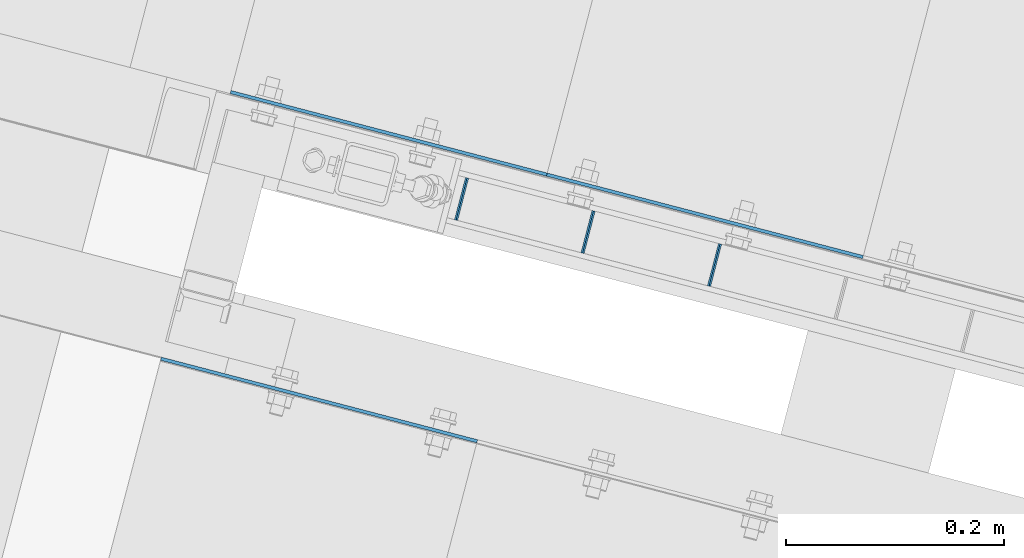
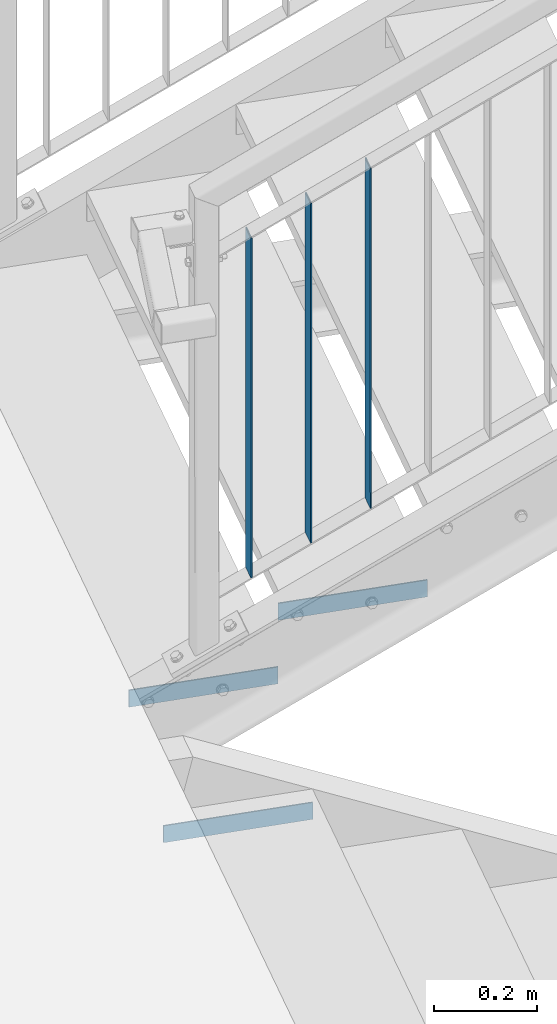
# One storey, part 71 of 169: 6 discrete accessories, 4 elements without a shape of their own.
"""IFC2X3 building model written with IfcOpenShell, lengths in millimetres."""

from ifc_helpers import new_model, si_unit, frame, origin_with_axes, origin_2d_with_axis, place, context, subcontext, project, spatial, polyline, rectangle, outline, extrude, clip, halfspace, material, type_object, element, aggregate, save


model = new_model("IFC2X3")

# Units and contexts
model_context = context("Model", 3, precision=1e-05, world=origin_with_axes())
body_context = subcontext(model_context, "Body", "Model", "MODEL_VIEW")
ifc_project = project(units=[si_unit("LENGTHUNIT", "METRE", prefix="MILLI"), si_unit("AREAUNIT", "SQUARE_METRE"), si_unit("VOLUMEUNIT", "CUBIC_METRE"), si_unit("MASSUNIT", "GRAM", prefix="KILO"), si_unit("TIMEUNIT", "SECOND"), si_unit("PLANEANGLEUNIT", "RADIAN"), si_unit("SOLIDANGLEUNIT", "STERADIAN"), si_unit("THERMODYNAMICTEMPERATUREUNIT", "DEGREE_CELSIUS"), si_unit("LUMINOUSINTENSITYUNIT", "LUMEN")], contexts=[model_context])

# Site, building, storey
site_placement = place(None, origin_with_axes())
site = spatial("IfcSite", under=ifc_project, at=site_placement, Name="Undefined", CompositionType="ELEMENT")
building_placement = place(site_placement, origin_with_axes())
building = spatial("IfcBuilding", under=site, at=building_placement, Name="Undefined", CompositionType="ELEMENT")
storey_placement = place(building_placement, origin_with_axes())
storey = spatial("IfcBuildingStorey", under=building, at=storey_placement, Name="Undefined", CompositionType="ELEMENT", Elevation=0.0)

# Assembly, discrete accessories
assembly_1_placement = place(storey_placement, origin_with_axes())
assembly_1 = element("IfcElementAssembly", 1, at=assembly_1_placement, inside=storey, Name="Steel Assembly", AssemblyPlace="NOTDEFINED", PredefinedType="RIGID_FRAME")
ifc_material_1 = material(Name="STEEL/S235")
discrete_accessory_type_1 = type_object("IfcDiscreteAccessoryType", Name="PORĘCZ")
discrete_accessory_1_placement = place(assembly_1_placement, frame((-27707.0059188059, 7313.25979053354, 13567.1970341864), z_axis=(-0.967563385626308, 0.252628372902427, -1.72000000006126e-07), x_axis=(-3.45692487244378e-05, -0.000132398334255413, -0.999999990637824)))
discrete_accessory_1 = element("IfcDiscreteAccessory", 2, at=discrete_accessory_1_placement, type_object=discrete_accessory_type_1, material=ifc_material_1, Name="PORĘCZ", ObjectType="BL40*3", context=body_context, shape_type="Clipping", body=[
    clip(clip(clip(extrude(outline(polyline([(953.32294910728, 20.0000000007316), (953.322949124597, -19.9999999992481), (149.627900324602, -19.9999999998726), (149.627900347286, 20.0000000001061), (953.32294910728, 20.0000000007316)])), frame((1.81898940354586e-12, -1.77635442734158e-15, -1.50000000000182), z_axis=(0.0, 0.0, 1.0), x_axis=(1.0, 0.0, 0.0)), (0.0, 0.0, 1.0), 3.0), halfspace(frame((149.292490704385, 1000.00000000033, -0.670820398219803), z_axis=(0.894427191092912, -5.07357340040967e-10, -0.447213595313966), x_axis=(-0.447213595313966, -3.31775709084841e-10, -0.894427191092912)), True)), halfspace(frame((953.658358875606, 1000.00000000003, 0.670820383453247), z_axis=(-0.89442719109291, -3.87067713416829e-10, 0.44721359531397), x_axis=(0.44721359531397, 3.3177479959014e-10, 0.89442719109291)), True)), halfspace(frame((22.3606799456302, 999.999999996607, -11.1803398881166), z_axis=(0.894427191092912, -5.07357340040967e-10, -0.447213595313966), x_axis=(-0.447213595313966, -3.31775709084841e-10, -0.894427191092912)), True)),
])
discrete_accessory_2_placement = place(assembly_1_placement, frame((-27590.896238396, 7282.95232969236, 13627.1970335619), z_axis=(-0.967563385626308, 0.252628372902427, -1.72000000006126e-07), x_axis=(-3.45692487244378e-05, -0.000132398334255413, -0.999999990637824)))
discrete_accessory_2 = element("IfcDiscreteAccessory", 3, at=discrete_accessory_2_placement, type_object=discrete_accessory_type_1, material=ifc_material_1, Name="PORĘCZ", ObjectType="BL40*3", context=body_context, shape_type="Clipping", body=[
    clip(clip(clip(extrude(outline(polyline([(953.32294910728, 20.0000000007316), (953.322949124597, -19.9999999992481), (149.627900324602, -19.9999999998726), (149.627900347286, 20.0000000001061), (953.32294910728, 20.0000000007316)])), frame((1.81898940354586e-12, -1.77635442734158e-15, -1.50000000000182), z_axis=(0.0, 0.0, 1.0), x_axis=(1.0, 0.0, 0.0)), (0.0, 0.0, 1.0), 3.0), halfspace(frame((149.292490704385, 1000.00000000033, -0.670820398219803), z_axis=(0.894427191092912, -5.07357340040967e-10, -0.447213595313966), x_axis=(-0.447213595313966, -3.31775709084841e-10, -0.894427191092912)), True)), halfspace(frame((953.658358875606, 1000.00000000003, 0.670820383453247), z_axis=(-0.89442719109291, -3.87067713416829e-10, 0.44721359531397), x_axis=(0.44721359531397, 3.3177479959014e-10, 0.89442719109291)), True)), halfspace(frame((22.3606799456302, 999.999999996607, -11.1803398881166), z_axis=(0.894427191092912, -5.07357340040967e-10, -0.447213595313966), x_axis=(-0.447213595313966, -3.31775709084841e-10, -0.894427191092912)), True)),
])
discrete_accessory_3_placement = place(assembly_1_placement, frame((-27474.7865579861, 7252.64486885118, 13687.1970329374), z_axis=(-0.967563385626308, 0.252628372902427, -1.72000000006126e-07), x_axis=(-3.45692487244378e-05, -0.000132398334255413, -0.999999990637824)))
discrete_accessory_3 = element("IfcDiscreteAccessory", 4, at=discrete_accessory_3_placement, type_object=discrete_accessory_type_1, material=ifc_material_1, Name="PORĘCZ", ObjectType="BL40*3", context=body_context, shape_type="Clipping", body=[
    clip(clip(clip(extrude(outline(polyline([(953.32294910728, 20.0000000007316), (953.322949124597, -19.9999999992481), (149.627900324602, -19.9999999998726), (149.627900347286, 20.0000000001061), (953.32294910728, 20.0000000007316)])), frame((1.81898940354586e-12, -1.77635442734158e-15, -1.50000000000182), z_axis=(0.0, 0.0, 1.0), x_axis=(1.0, 0.0, 0.0)), (0.0, 0.0, 1.0), 3.0), halfspace(frame((149.292490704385, 1000.00000000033, -0.670820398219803), z_axis=(0.894427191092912, -5.07357340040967e-10, -0.447213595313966), x_axis=(-0.447213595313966, -3.31775709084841e-10, -0.894427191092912)), True)), halfspace(frame((953.658358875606, 1000.00000000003, 0.670820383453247), z_axis=(-0.89442719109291, -3.87067713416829e-10, 0.44721359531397), x_axis=(0.44721359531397, 3.3177479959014e-10, 0.89442719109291)), True)), halfspace(frame((22.3606799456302, 999.999999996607, -11.1803398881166), z_axis=(0.894427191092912, -5.07357340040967e-10, -0.447213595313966), x_axis=(-0.447213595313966, -3.31775709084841e-10, -0.894427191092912)), True)),
])
aggregate(assembly_1, [discrete_accessory_1, discrete_accessory_2, discrete_accessory_3])

# Assembly, discrete accessory
assembly_2_placement = place(storey_placement, origin_with_axes())
assembly_2 = element("IfcElementAssembly", 5, at=assembly_2_placement, inside=storey, Name="Steel Assembly", AssemblyPlace="NOTDEFINED", PredefinedType="RIGID_FRAME")
ifc_material_2 = material(Name="STEEL/S235JR")
discrete_accessory_type_2 = type_object("IfcDiscreteAccessoryType", Name="ANGLE")
discrete_accessory_4_placement = place(assembly_2_placement, frame((-27338.5078077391, 7259.81165590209, 12480.0957859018), z_axis=(0.252562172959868, 0.967580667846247, 0.0), x_axis=(-0.967580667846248, 0.252562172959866, 0.0)))
discrete_accessory_4 = element("IfcDiscreteAccessory", 6, at=discrete_accessory_4_placement, type_object=discrete_accessory_type_2, material=ifc_material_2, Name="ANGLE", ObjectType="3*40", context=body_context, shape_type="SweptSolid", body=[
    extrude(rectangle(XDim=40.0, YDim=3.0, at=origin_2d_with_axis()), frame((300.000000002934, 1.81898940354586e-12, -1.81898940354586e-12), z_axis=(-1.0, -3.46944695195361e-18, -1.38777878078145e-17), x_axis=(1.73472347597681e-18, -1.0, 0.0)), (0.0, 0.0, 1.0), 300.0),
])
aggregate(assembly_2, [discrete_accessory_4])

assembly_3_placement = place(storey_placement, origin_with_axes())
assembly_3 = element("IfcElementAssembly", 7, at=assembly_3_placement, inside=storey, Name="Steel Assembly", AssemblyPlace="NOTDEFINED", PredefinedType="RIGID_FRAME")
discrete_accessory_5_placement = place(assembly_3_placement, frame((-27628.7820114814, 7335.58030871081, 12330.0957859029), z_axis=(0.252562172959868, 0.967580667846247, 0.0), x_axis=(-0.967580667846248, 0.252562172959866, 0.0)))
discrete_accessory_5 = element("IfcDiscreteAccessory", 8, at=discrete_accessory_5_placement, type_object=discrete_accessory_type_2, material=ifc_material_2, Name="ANGLE", ObjectType="3*40", context=body_context, shape_type="SweptSolid", body=[
    extrude(rectangle(XDim=40.0, YDim=3.0, at=origin_2d_with_axis()), frame((300.000000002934, 1.81898940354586e-12, -1.81898940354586e-12), z_axis=(-1.0, -3.46944695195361e-18, -1.38777878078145e-17), x_axis=(1.73472347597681e-18, -1.0, 0.0)), (0.0, 0.0, 1.0), 300.0),
])
aggregate(assembly_3, [discrete_accessory_5])

assembly_4_placement = place(storey_placement, origin_with_axes())
assembly_4 = element("IfcElementAssembly", 9, at=assembly_4_placement, inside=storey, Name="Steel Assembly", AssemblyPlace="NOTDEFINED", PredefinedType="RIGID_FRAME")
discrete_accessory_6_placement = place(assembly_4_placement, frame((-27982.9712134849, 7166.55544308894, 12180.3215824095), z_axis=(-0.252694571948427, -0.96754609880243, 0.0), x_axis=(0.96754609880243, -0.252694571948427, 0.0)))
discrete_accessory_6 = element("IfcDiscreteAccessory", 10, at=discrete_accessory_6_placement, type_object=discrete_accessory_type_2, material=ifc_material_2, Name="ANGLE", ObjectType="3*40", context=body_context, shape_type="SweptSolid", body=[
    extrude(rectangle(XDim=40.0, YDim=3.0, at=origin_2d_with_axis()), frame((300.000000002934, 1.81898940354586e-12, -1.81898940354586e-12), z_axis=(-1.0, -3.46944695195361e-18, -1.38777878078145e-17), x_axis=(1.73472347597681e-18, -1.0, 0.0)), (0.0, 0.0, 1.0), 300.0),
])
aggregate(assembly_4, [discrete_accessory_6])

save(model, "model.ifc")
